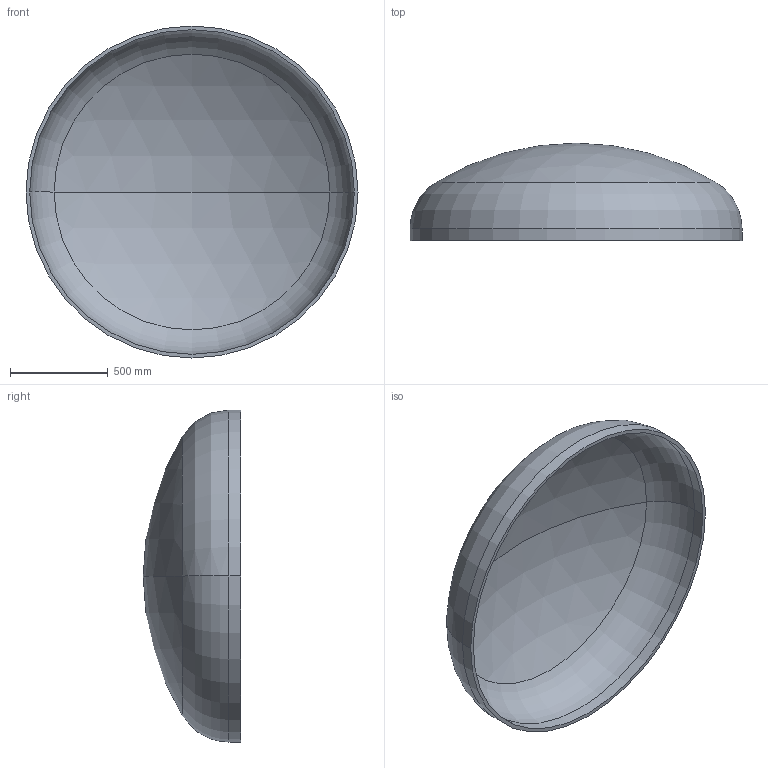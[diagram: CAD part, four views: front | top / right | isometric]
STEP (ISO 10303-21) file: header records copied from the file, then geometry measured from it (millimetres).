
FILE_DESCRIPTION (( 'STEP AP203' ), '1' );
FILE_NAME ('DIN 28013 Korbbogenform_-_Boden DIN 28013 - 1700 x 60 - I - s=19.step', '2016-07-01T11:40:07', ( '' ), ( '' ), 'SwSTEP 2.0', 'SolidWorks 2013', '' );
FILE_SCHEMA (( 'CONFIG_CONTROL_DESIGN' ));
Length unit declared in the file: millimetre
Products named in the file (1): DIN 28013 Korbbogenform_-_Boden DIN 28013 - 1700 x 60 - I - s=19
Bounding box: 1700 x 498.81 x 1700 mm (x, y, z)
Volume: 64793798.8 mm3; surface area: 6921492.8 mm2
Topology: 1 solids, 1 shells, 13 faces, 24 edges, 14 vertices
Faces by surface type: torus 4, cylinder 4, sphere 4, plane 1
Entity records: 407 total; most frequent: DIRECTION 72, CARTESIAN_POINT 52, ORIENTED_EDGE 48, AXIS2_PLACEMENT_3D 34, EDGE_CURVE 24, CIRCLE 20, VERTEX_POINT 14, EDGE_LOOP 14
